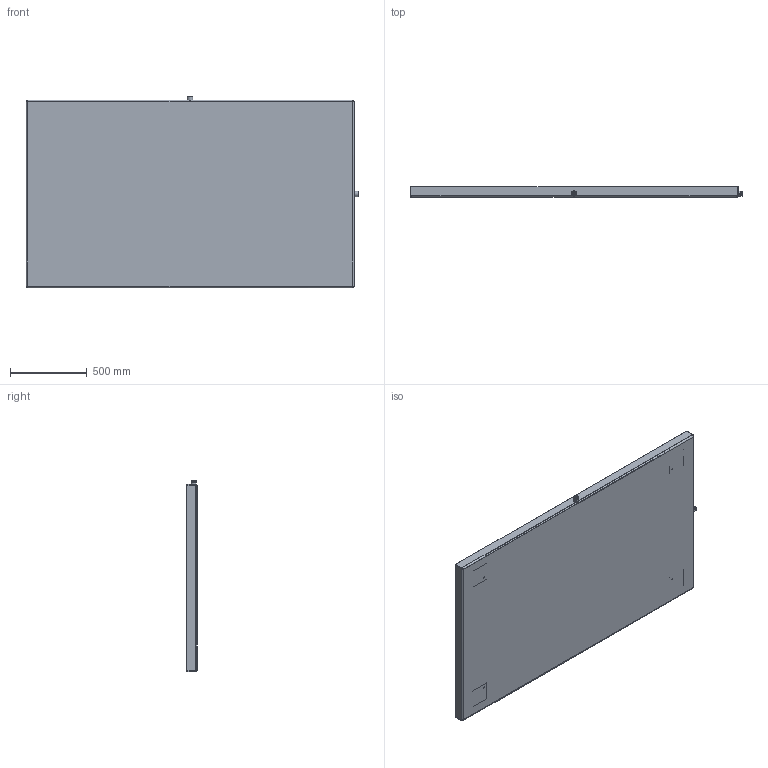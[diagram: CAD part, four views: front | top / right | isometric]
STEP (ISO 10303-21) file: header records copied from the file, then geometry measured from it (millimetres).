
FILE_DESCRIPTION (( 'STEP AP203' ), '1' );
FILE_NAME ('RJDPP200.STEP', '2015-01-07T19:45:48', ( '' ), ( '' ), 'SwSTEP 2.0', 'SolidWorks 2014', '' );
FILE_SCHEMA (( 'CONFIG_CONTROL_DESIGN' ));
Length unit declared in the file: inch
Products named in the file (1): RJDPP200
Bounding box: 2159 x 66.67 x 1244.6 mm (x, y, z)
Volume: 14462974.1 mm3; surface area: 6185329.4 mm2
Topology: 9 solids, 9 shells, 257 faces, 557 edges, 318 vertices
Faces by surface type: cone 128, plane 70, cylinder 49, bspline 10
Entity records: 7674 total; most frequent: CARTESIAN_POINT 1957, DIRECTION 1235, ORIENTED_EDGE 1114, EDGE_CURVE 557, AXIS2_PLACEMENT_3D 466, VERTEX_POINT 318, VECTOR 303, LINE 303
